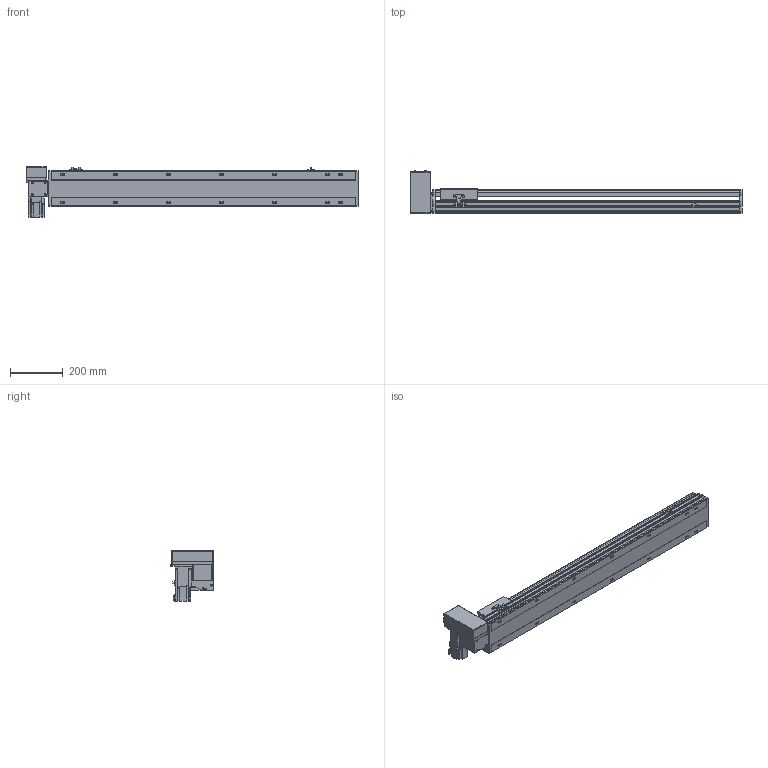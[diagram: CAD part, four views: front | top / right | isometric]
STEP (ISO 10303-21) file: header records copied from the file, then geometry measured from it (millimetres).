
FILE_DESCRIPTION( ( 'STEP AP214' ), '1' );
FILE_NAME( 'x:/temp/worker_6/temp/exporttempdir_5396_211_60uOv/format_0/PBS140S-P40-S900-RU-T40-C1-N(0).stp', '2022-06-09T00:54:37', ( 'License CC BY-ND 4.0' ), ( 'CADENAS' ), ' ', 'PARTsolutions', ' ' );
FILE_SCHEMA( ( 'AUTOMOTIVE_DESIGN { 1 0 10303 214 1 1 1 1 }' ) );
Length unit declared in the file: millimetre
Products named in the file (7): PBS140S-P40-S900-RU-T40-C1-N(0); _PBS140S-S900()_body; _PBS140ST-RU_motors; _T40-p1; _PBS140S_sliser; _PBS140S_plant; _PBS140S_sensor
Assembly tree (8 placements, depth 2):
  PBS140S-P40-S900-RU-T40-C1-N(0)
    _PBS140S-S900()_body
    _PBS140ST-RU_motors
    _T40-p1
    _PBS140S_sliser
    _PBS140S_plant
    _PBS140S_sensor  x3
Bounding box: 1254 x 162.5 x 189.7 mm (x, y, z)
Volume: 6582528.7 mm3; surface area: 1145218.9 mm2
Topology: 8 solids, 8 shells, 1083 faces, 2871 edges, 1879 vertices
Faces by surface type: plane 696, cylinder 337, cone 40, sphere 8, torus 2
Full cylindrical faces by diameter (mm): 3.242 x4, 4 x2, 4.134 x4, 4.4 x8, 4.5 x2, 4.8 x4, 4.917 x22, 5.5 x7, 6 x2, 7 x16, 7.5 x8, 8 x12, 8.5 x4, 10.5 x14, 14 x1, 30 x2, 50 x2
Entity records: 39694 total; most frequent: CARTESIAN_POINT 6238, DIRECTION 5278, ORIENTED_EDGE 5002, EDGE_CURVE 2501, AXIS2_PLACEMENT_3D 1829, VERTEX_POINT 1729, LINE 1620, VECTOR 1620
